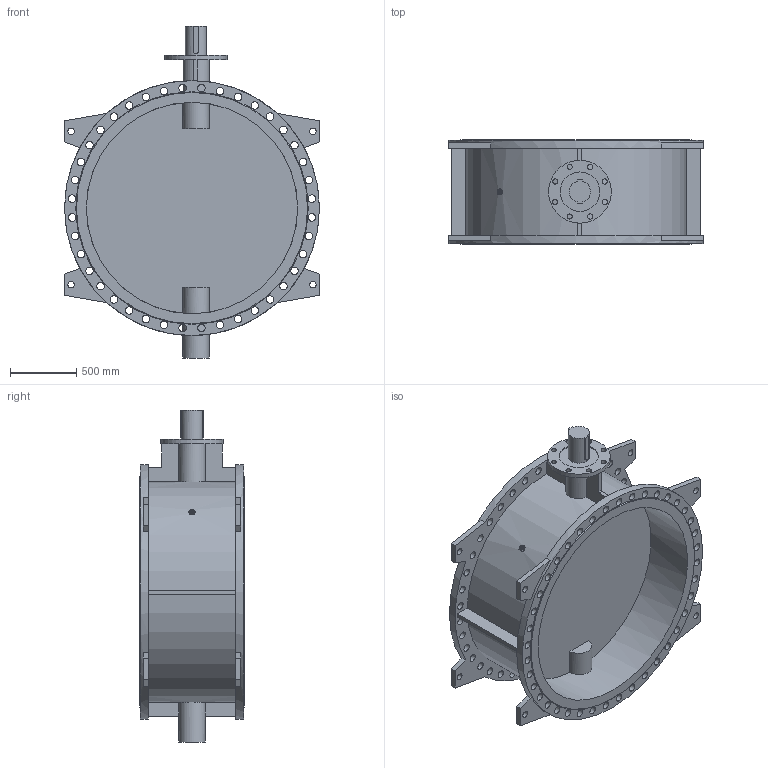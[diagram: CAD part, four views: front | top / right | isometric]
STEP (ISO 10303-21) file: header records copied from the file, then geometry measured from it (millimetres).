
FILE_DESCRIPTION(('STEP AP203'), '1');
FILE_NAME('Çàòâîð 023F.Z DN1600 PN16_èñï', '', ('UNSPECIFIED'), ('UNSPECIFIED'), 'ASCON STEP Converter 1.6', 'ASCON Math Kernel', '');
FILE_SCHEMA(('CONFIG_CONTROL_DESIGN'));
Length unit declared in the file: millimetre
Bounding box: 1930 x 790 x 2513 mm (x, y, z)
Volume: 486968449.5 mm3; surface area: 17623044 mm2
Topology: 1 solids, 1 shells, 212 faces, 598 edges, 396 vertices
Faces by surface type: cylinder 123, plane 87, cone 2
Full cylindrical faces by diameter (mm): 39 x8, 50 x8, 57 x80, 160 x1, 200 x1, 300 x1, 475 x1, 1600 x2, 1930 x2
Entity records: 9561 total; most frequent: CARTESIAN_POINT 2147, DIRECTION 1166, ORIENTED_EDGE 984, EDGE_LOOP 518, EDGE_CURVE 492, AXIS2_PLACEMENT_3D 480, VERTEX_POINT 396, FACE_BOUND 315
